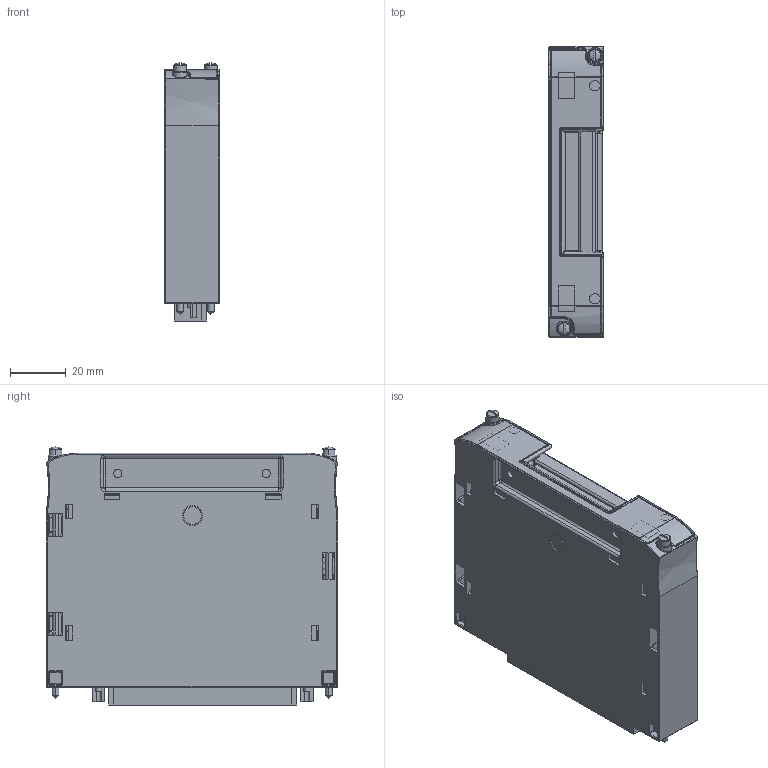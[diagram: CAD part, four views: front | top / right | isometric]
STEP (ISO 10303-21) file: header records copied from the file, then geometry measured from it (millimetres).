
FILE_DESCRIPTION((''),'2;1');
FILE_NAME('CD_TB-2636','2011-08-10T',('jjorden'),(''),'PRO/ENGINEER BY PARAMETRIC TECHNOLOGY CORPORATION, 2010230','PRO/ENGINEER BY PARAMETRIC TECHNOLOGY CORPORATION, 2010230','');
FILE_SCHEMA(('CONFIG_CONTROL_DESIGN'));
Products named in the file (1): CD_TB-2636
Bounding box: 19.53 x 104.54 x 92.77 mm (x, y, z)
Volume: 82446 mm3; surface area: 83389.6 mm2
Topology: 1 solids, 2 shells, 3108 faces, 7650 edges, 4701 vertices
Faces by surface type: plane 1933, cylinder 598, bspline 269, torus 122, sphere 122, cone 64
Entity records: 110815 total; most frequent: CARTESIAN_POINT 39169, ORIENTED_EDGE 15186, DIRECTION 13942, EDGE_CURVE 7593, VECTOR 5384, LINE 5384, VERTEX_POINT 4796, AXIS2_PLACEMENT_3D 4279
